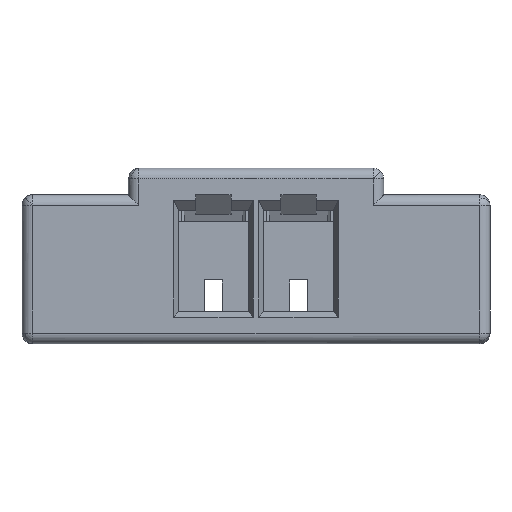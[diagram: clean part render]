
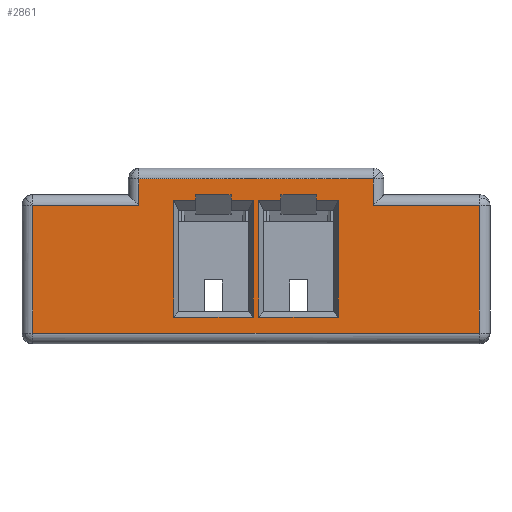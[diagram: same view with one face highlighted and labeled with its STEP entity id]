
A CAD part, left-side view. The second image highlights one B-rep face of the part: STEP entity #2861.
In plain terms, the highlighted planar face has unit normal (-1, 0, 0).
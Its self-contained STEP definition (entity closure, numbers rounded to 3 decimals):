
#63=DIRECTION('',(0.,0.,-1.));
#64=VECTOR('',#63,1.2);
#65=CARTESIAN_POINT('',(0.,-7.7,0.475));
#66=LINE('',#65,#64);
#71=DIRECTION('',(0.,-1.,0.));
#72=VECTOR('',#71,2.2);
#73=CARTESIAN_POINT('',(0.,-4.5,0.725));
#74=LINE('',#73,#72);
#124=DIRECTION('',(0.,0.,1.));
#125=VECTOR('',#124,0.25);
#126=CARTESIAN_POINT('',(0.,-4.5,0.475));
#127=LINE('',#126,#125);
#139=DIRECTION('',(0.,-1.,0.));
#140=VECTOR('',#139,1.);
#141=CARTESIAN_POINT('',(0.,-3.5,0.475));
#142=LINE('',#141,#140);
#172=DIRECTION('',(0.,0.,1.));
#173=VECTOR('',#172,1.2);
#174=CARTESIAN_POINT('',(0.,-3.5,-0.725));
#175=LINE('',#174,#173);
#194=DIRECTION('',(0.,1.,0.));
#195=VECTOR('',#194,4.2);
#196=CARTESIAN_POINT('',(0.,-7.7,-0.725));
#197=LINE('',#196,#195);
#281=DIRECTION('',(0.,0.,-1.));
#282=VECTOR('',#281,0.25);
#283=CARTESIAN_POINT('',(0.,-6.7,0.725));
#284=LINE('',#283,#282);
#294=CARTESIAN_POINT('',(0.,-6.7,0.475));
#300=DIRECTION('',(0.,-1.,0.));
#301=VECTOR('',#300,1.);
#302=CARTESIAN_POINT('',(0.,-6.7,0.475));
#303=LINE('',#302,#301);
#730=DIRECTION('',(0.,1.,0.));
#731=VECTOR('',#730,0.21);
#732=CARTESIAN_POINT('',(0.,-5.035,0.525));
#733=LINE('',#732,#731);
#742=DIRECTION('',(0.,0.,-1.));
#743=VECTOR('',#742,0.05);
#744=CARTESIAN_POINT('',(0.,-5.035,0.575));
#745=LINE('',#744,#743);
#762=DIRECTION('',(0.,1.,0.));
#763=VECTOR('',#762,0.33);
#764=CARTESIAN_POINT('',(0.,-5.365,0.575));
#765=LINE('',#764,#763);
#786=DIRECTION('',(0.,0.,1.));
#787=VECTOR('',#786,0.05);
#788=CARTESIAN_POINT('',(0.,-5.365,0.525));
#789=LINE('',#788,#787);
#790=DIRECTION('',(0.,1.,0.));
#791=VECTOR('',#790,0.21);
#792=CARTESIAN_POINT('',(0.,-5.575,0.525));
#793=LINE('',#792,#791);
#802=DIRECTION('',(0.,0.,1.));
#803=VECTOR('',#802,1.1);
#804=CARTESIAN_POINT('',(0.,-5.575,-0.575));
#805=LINE('',#804,#803);
#810=DIRECTION('',(0.,-1.,0.));
#811=VECTOR('',#810,0.75);
#812=CARTESIAN_POINT('',(0.,-4.825,-0.575));
#813=LINE('',#812,#811);
#818=DIRECTION('',(0.,0.,-1.));
#819=VECTOR('',#818,1.1);
#820=CARTESIAN_POINT('',(0.,-4.825,0.525));
#821=LINE('',#820,#819);
#1662=DIRECTION('',(0.,-1.,0.));
#1663=VECTOR('',#1662,0.75);
#1664=CARTESIAN_POINT('',(0.,-5.625,-0.575));
#1665=LINE('',#1664,#1663);
#1678=DIRECTION('',(0.,0.,1.));
#1679=VECTOR('',#1678,1.1);
#1680=CARTESIAN_POINT('',(0.,-6.375,-0.575));
#1681=LINE('',#1680,#1679);
#1682=DIRECTION('',(0.,1.,0.));
#1683=VECTOR('',#1682,0.21);
#1684=CARTESIAN_POINT('',(0.,-6.375,0.525));
#1685=LINE('',#1684,#1683);
#1710=DIRECTION('',(0.,0.,1.));
#1711=VECTOR('',#1710,0.05);
#1712=CARTESIAN_POINT('',(0.,-6.165,0.525));
#1713=LINE('',#1712,#1711);
#1731=DIRECTION('',(0.,0.,-1.));
#1732=VECTOR('',#1731,0.05);
#1733=CARTESIAN_POINT('',(0.,-5.835,0.575));
#1734=LINE('',#1733,#1732);
#1747=DIRECTION('',(0.,1.,0.));
#1748=VECTOR('',#1747,0.21);
#1749=CARTESIAN_POINT('',(0.,-5.835,0.525));
#1750=LINE('',#1749,#1748);
#1755=DIRECTION('',(0.,0.,-1.));
#1756=VECTOR('',#1755,1.1);
#1757=CARTESIAN_POINT('',(0.,-5.625,0.525));
#1758=LINE('',#1757,#1756);
#1775=DIRECTION('',(0.,1.,0.));
#1776=VECTOR('',#1775,0.33);
#1777=CARTESIAN_POINT('',(0.,-6.165,0.575));
#1778=LINE('',#1777,#1776);
#2113=CARTESIAN_POINT('',(0.,-7.7,0.475));
#2115=VERTEX_POINT('',#2113);
#2116=CARTESIAN_POINT('',(0.,-7.7,-0.725));
#2117=VERTEX_POINT('',#2116);
#2127=CARTESIAN_POINT('',(0.,-4.5,0.725));
#2129=VERTEX_POINT('',#2127);
#2133=CARTESIAN_POINT('',(0.,-6.7,0.725));
#2134=VERTEX_POINT('',#2133);
#2153=CARTESIAN_POINT('',(0.,-3.5,-0.725));
#2154=VERTEX_POINT('',#2153);
#2169=VERTEX_POINT('',#294);
#2172=CARTESIAN_POINT('',(0.,-6.375,0.525));
#2173=CARTESIAN_POINT('',(0.,-6.165,0.525));
#2174=VERTEX_POINT('',#2172);
#2175=VERTEX_POINT('',#2173);
#2196=CARTESIAN_POINT('',(0.,-5.835,0.575));
#2197=CARTESIAN_POINT('',(0.,-5.835,0.525));
#2198=VERTEX_POINT('',#2196);
#2199=VERTEX_POINT('',#2197);
#2272=CARTESIAN_POINT('',(0.,-3.5,0.475));
#2273=VERTEX_POINT('',#2272);
#2300=CARTESIAN_POINT('',(0.,-6.165,0.575));
#2301=VERTEX_POINT('',#2300);
#2314=CARTESIAN_POINT('',(0.,-5.035,0.575));
#2315=VERTEX_POINT('',#2314);
#2316=CARTESIAN_POINT('',(0.,-5.365,0.575));
#2317=VERTEX_POINT('',#2316);
#2476=CARTESIAN_POINT('',(0.,-5.625,0.525));
#2477=VERTEX_POINT('',#2476);
#2478=CARTESIAN_POINT('',(0.,-5.625,-0.575));
#2479=VERTEX_POINT('',#2478);
#2482=CARTESIAN_POINT('',(0.,-6.375,-0.575));
#2483=VERTEX_POINT('',#2482);
#2571=CARTESIAN_POINT('',(0.,-5.575,0.525));
#2572=CARTESIAN_POINT('',(0.,-5.365,0.525));
#2573=VERTEX_POINT('',#2571);
#2574=VERTEX_POINT('',#2572);
#2575=CARTESIAN_POINT('',(0.,-5.575,-0.575));
#2576=VERTEX_POINT('',#2575);
#2613=CARTESIAN_POINT('',(0.,-5.035,0.525));
#2614=VERTEX_POINT('',#2613);
#2615=CARTESIAN_POINT('',(0.,-4.825,0.525));
#2616=VERTEX_POINT('',#2615);
#2617=CARTESIAN_POINT('',(0.,-4.825,-0.575));
#2618=VERTEX_POINT('',#2617);
#2649=CARTESIAN_POINT('',(0.,-4.5,0.475));
#2650=VERTEX_POINT('',#2649);
#2803=CARTESIAN_POINT('',(0.,-7.2,0.));
#2804=DIRECTION('',(1.,0.,0.));
#2805=DIRECTION('',(0.,0.,1.));
#2806=AXIS2_PLACEMENT_3D('',#2803,#2804,#2805);
#2807=PLANE('',#2806);
#2809=ORIENTED_EDGE('',*,*,#2808,.T.);
#2811=ORIENTED_EDGE('',*,*,#2810,.T.);
#2813=ORIENTED_EDGE('',*,*,#2812,.T.);
#2814=ORIENTED_EDGE('',*,*,#2794,.T.);
#2816=ORIENTED_EDGE('',*,*,#2815,.T.);
#2818=ORIENTED_EDGE('',*,*,#2817,.T.);
#2820=ORIENTED_EDGE('',*,*,#2819,.T.);
#2822=ORIENTED_EDGE('',*,*,#2821,.T.);
#2823=EDGE_LOOP('',(#2809,#2811,#2813,#2814,#2816,#2818,#2820,#2822));
#2824=FACE_OUTER_BOUND('',#2823,.F.);
#2826=ORIENTED_EDGE('',*,*,#2825,.T.);
#2828=ORIENTED_EDGE('',*,*,#2827,.T.);
#2830=ORIENTED_EDGE('',*,*,#2829,.T.);
#2832=ORIENTED_EDGE('',*,*,#2831,.T.);
#2834=ORIENTED_EDGE('',*,*,#2833,.T.);
#2836=ORIENTED_EDGE('',*,*,#2835,.T.);
#2838=ORIENTED_EDGE('',*,*,#2837,.T.);
#2840=ORIENTED_EDGE('',*,*,#2839,.T.);
#2841=EDGE_LOOP('',(#2826,#2828,#2830,#2832,#2834,#2836,#2838,#2840));
#2842=FACE_BOUND('',#2841,.F.);
#2844=ORIENTED_EDGE('',*,*,#2843,.T.);
#2846=ORIENTED_EDGE('',*,*,#2845,.T.);
#2848=ORIENTED_EDGE('',*,*,#2847,.T.);
#2850=ORIENTED_EDGE('',*,*,#2849,.T.);
#2852=ORIENTED_EDGE('',*,*,#2851,.T.);
#2854=ORIENTED_EDGE('',*,*,#2853,.T.);
#2856=ORIENTED_EDGE('',*,*,#2855,.T.);
#2858=ORIENTED_EDGE('',*,*,#2857,.T.);
#2859=EDGE_LOOP('',(#2844,#2846,#2848,#2850,#2852,#2854,#2856,#2858));
#2860=FACE_BOUND('',#2859,.F.);
#2861=ADVANCED_FACE('',(#2824,#2842,#2860),#2807,.F.);
#2794=EDGE_CURVE('',#2115,#2117,#66,.T.);
#2808=EDGE_CURVE('',#2129,#2134,#74,.T.);
#2810=EDGE_CURVE('',#2134,#2169,#284,.T.);
#2812=EDGE_CURVE('',#2169,#2115,#303,.T.);
#2815=EDGE_CURVE('',#2117,#2154,#197,.T.);
#2817=EDGE_CURVE('',#2154,#2273,#175,.T.);
#2819=EDGE_CURVE('',#2273,#2650,#142,.T.);
#2821=EDGE_CURVE('',#2650,#2129,#127,.T.);
#2825=EDGE_CURVE('',#2614,#2616,#733,.T.);
#2827=EDGE_CURVE('',#2616,#2618,#821,.T.);
#2829=EDGE_CURVE('',#2618,#2576,#813,.T.);
#2831=EDGE_CURVE('',#2576,#2573,#805,.T.);
#2833=EDGE_CURVE('',#2573,#2574,#793,.T.);
#2835=EDGE_CURVE('',#2574,#2317,#789,.T.);
#2837=EDGE_CURVE('',#2317,#2315,#765,.T.);
#2839=EDGE_CURVE('',#2315,#2614,#745,.T.);
#2843=EDGE_CURVE('',#2199,#2477,#1750,.T.);
#2845=EDGE_CURVE('',#2477,#2479,#1758,.T.);
#2847=EDGE_CURVE('',#2479,#2483,#1665,.T.);
#2849=EDGE_CURVE('',#2483,#2174,#1681,.T.);
#2851=EDGE_CURVE('',#2174,#2175,#1685,.T.);
#2853=EDGE_CURVE('',#2175,#2301,#1713,.T.);
#2855=EDGE_CURVE('',#2301,#2198,#1778,.T.);
#2857=EDGE_CURVE('',#2198,#2199,#1734,.T.);
